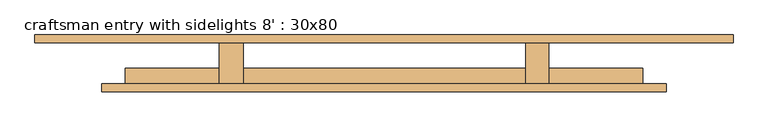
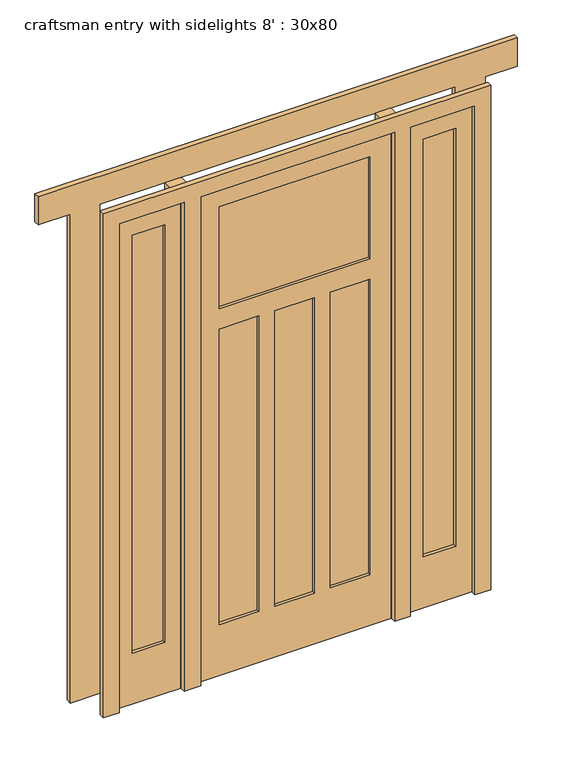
"""IFC4 building model written with IfcOpenShell, lengths in millimetres: door geometry, craftsman entry with sidelights 8' : 30x80."""

from ifc_helpers import new_model, si_unit, frame, origin, origin_with_axes, place, context, project, spatial, polyline, outline, extrude, source, transform, mapped, element, save


def craftsman_entry_with_sidelights_8_30x80_eab3a492(model_context):
    return source(origin(), model_context, "Body", "SweptSolid", [
        extrude(outline(polyline([(762.0, -31.75), (762.0, -50.8), (609.6, -50.8), (609.6, -31.75), (762.0, -31.75)])), frame((0.0, 0.0, 254.0), z_axis=(0.0, 0.0, 1.0), x_axis=(1.0, 0.0, 0.0)), (0.0, 0.0, 1.0), 2082.8),
        extrude(outline(polyline([(-609.6, -31.75), (-609.6, -50.8), (-762.0, -50.8), (-762.0, -31.75), (-609.6, -31.75)])), frame((0.0, 0.0, 254.0), z_axis=(0.0, 0.0, 1.0), x_axis=(1.0, 0.0, 0.0)), (0.0, 0.0, 1.0), 2082.8),
        extrude(outline(polyline([(-455.0833333, 66.675), (-455.0833333, -66.675), (-533.4, -66.675), (-533.4, 66.675), (-455.0833333, 66.675)])), origin_with_axes(), (0.0, 0.0, 1.0), 2438.4),
        extrude(outline(polyline([(533.4, 66.675), (533.4, -66.675), (459.3166667, -66.675), (459.3166667, 66.675), (533.4, 66.675)])), origin_with_axes(), (0.0, 0.0, 1.0), 2438.4),
        extrude(outline(polyline([(2438.4, -533.4), (2438.4, -838.2), (0.0, -838.2), (0.0, -533.4), (2438.4, -533.4)]), holes=[polyline([(2336.8, -609.6), (254.0, -609.6), (254.0, -762.0), (2336.8, -762.0), (2336.8, -609.6)])]), frame((0.0, -66.675, 0.0), z_axis=(0.0, 1.0, 0.0), x_axis=(0.0, 0.0, 1.0)), (0.0, 0.0, 1.0), 50.8),
        extrude(outline(polyline([(0.0, 533.4), (0.0, 838.2), (2438.4, 838.2), (2438.4, 533.4), (0.0, 533.4)]), holes=[polyline([(2336.8, 762.0), (254.0, 762.0), (254.0, 609.6), (2336.8, 609.6), (2336.8, 762.0)])]), frame((0.0, -66.675, 0.0), z_axis=(0.0, 1.0, 0.0), x_axis=(0.0, 0.0, 1.0)), (0.0, 0.0, 1.0), 50.8),
        extrude(outline(polyline([(0.0, 914.4), (2514.6, 914.4), (2514.6, -914.4), (0.0, -914.4), (0.0, -838.2), (2438.4, -838.2), (2438.4, -533.4), (0.0, -533.4), (0.0, -455.0833333), (2438.4, -455.0833333), (2438.4, 459.3166667), (0.0, 459.3166667), (0.0, 533.4), (2438.4, 533.4), (2438.4, 838.2), (0.0, 838.2), (0.0, 914.4)])), frame((0.0, -92.075, 0.0), z_axis=(0.0, 1.0, 0.0), x_axis=(0.0, 0.0, 1.0)), (0.0, 0.0, 1.0), 25.4),
        extrude(outline(polyline([(2438.4, 459.3166667), (2438.4, -455.0833333), (0.0, -455.0833333), (0.0, 459.3166667), (2438.4, 459.3166667)]), holes=[polyline([(1828.8, -353.4833333), (2336.8, -353.4833333), (2336.8, 357.7166667), (1828.8, 357.7166667), (1828.8, -353.4833333)]), polyline([(1727.2, -167.2166667), (254.0, -167.2166667), (254.0, -353.4833333), (1727.2, -353.4833333), (1727.2, -167.2166667)]), polyline([(1727.2, 357.7166667), (254.0, 357.7166667), (254.0, 171.45), (1727.2, 171.45), (1727.2, 357.7166667)]), polyline([(1727.2, -91.0166667), (1727.2, 95.25), (254.0, 95.25), (254.0, -91.0166667), (1727.2, -91.0166667)])]), frame((0.0, -66.675, 0.0), z_axis=(0.0, 1.0, 0.0), x_axis=(0.0, 0.0, 1.0)), (0.0, 0.0, 1.0), 50.8),
        extrude(outline(polyline([(-167.2166667, -41.275), (-167.2166667, -53.975), (-353.4833333, -53.975), (-353.4833333, -41.275), (-167.2166667, -41.275)])), frame((0.0, 0.0, 254.0), z_axis=(0.0, 0.0, 1.0), x_axis=(1.0, 0.0, 0.0)), (0.0, 0.0, 1.0), 1473.2),
        extrude(outline(polyline([(95.25, -41.275), (95.25, -53.975), (-91.0166667, -53.975), (-91.0166667, -41.275), (95.25, -41.275)])), frame((0.0, 0.0, 254.0), z_axis=(0.0, 0.0, 1.0), x_axis=(1.0, 0.0, 0.0)), (0.0, 0.0, 1.0), 1473.2),
        extrude(outline(polyline([(357.7166667, -41.275), (357.7166667, -53.975), (171.45, -53.975), (171.45, -41.275), (357.7166667, -41.275)])), frame((0.0, 0.0, 254.0), z_axis=(0.0, 0.0, 1.0), x_axis=(1.0, 0.0, 0.0)), (0.0, 0.0, 1.0), 1473.2),
        extrude(outline(polyline([(357.7166667, -41.275), (357.7166667, -53.975), (-353.4833333, -53.975), (-353.4833333, -41.275), (357.7166667, -41.275)])), frame((0.0, 0.0, 1828.8), z_axis=(0.0, 0.0, 1.0), x_axis=(1.0, 0.0, 0.0)), (0.0, 0.0, 1.0), 508.0),
        extrude(outline(polyline([(2438.4, -977.9), (0.0, -977.9), (0.0, -838.2), (2438.4, -838.2), (2438.4, 838.2), (0.0, 838.2), (0.0, 977.9), (2438.4, 977.9), (2438.4, 1130.3), (2578.1, 1130.3), (2578.1, -1130.3), (2438.4, -1130.3), (2438.4, -977.9)])), frame((0.0, 66.675, 0.0), z_axis=(0.0, 1.0, 0.0), x_axis=(0.0, 0.0, 1.0)), (0.0, 0.0, 1.0), 25.4),
    ])


if __name__ == "__main__":
    model = new_model("IFC4")
    model_context = context("Model", 3, world=origin())
    ifc_project = project(units=[si_unit("LENGTHUNIT", "METRE", prefix="MILLI")], contexts=[model_context])
    site = spatial("IfcSite", under=ifc_project)
    building = spatial("IfcBuilding", under=site)
    placement = place(None, origin())
    craftsman_entry_with_sidelights_8_30x80_shape = craftsman_entry_with_sidelights_8_30x80_eab3a492(model_context)
    element("IfcDoor", 1, ObjectType="craftsman entry with sidelights 8' : 30x80", at=placement, inside=building, context=model_context, shape_type="MappedRepresentation", body=[
        mapped(craftsman_entry_with_sidelights_8_30x80_shape, transform((0.0, 0.0, 0.0), x_axis=(1.0, 0.0, 0.0), y_axis=(0.0, 1.0, 0.0), z_axis=(0.0, 0.0, 1.0))),
    ])
    save(model, "model.ifc")
